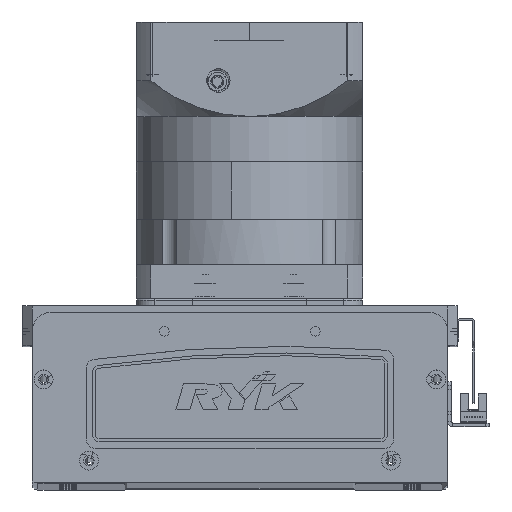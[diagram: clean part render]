
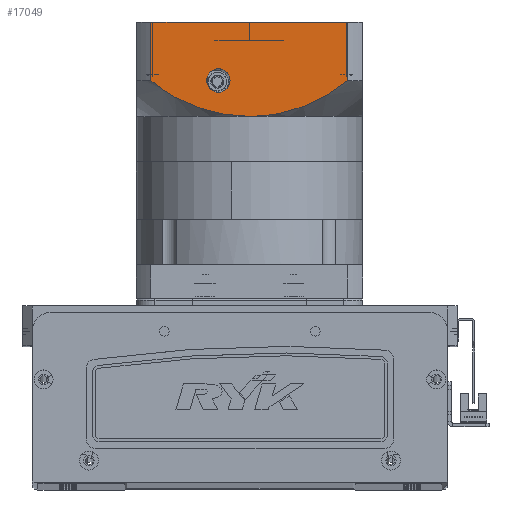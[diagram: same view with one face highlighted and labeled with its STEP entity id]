
A CAD part, top view. The second image highlights one B-rep face of the part: STEP entity #17049.
In plain terms, the highlighted planar face has unit normal (0, 0, 1) as drawn and (0, -1, 0) by its records, which use the part's own axes.
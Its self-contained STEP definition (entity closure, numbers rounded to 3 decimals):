
#830 = EDGE_LOOP ( 'NONE', ( #19661, #28987, #9661, #12062, #45867 ) ) ;
#1755 = CARTESIAN_POINT ( 'NONE',  ( 45.542, -60., -114.478 ) ) ;
#1995 = DIRECTION ( 'NONE',  ( 1., 0., 0. ) ) ;
#1997 = B_SPLINE_CURVE_WITH_KNOTS ( 'NONE', 3,
 ( #58545, #62864, #27476, #27713, #63731, #32448, #48379, #63507, #21869, #17566, #22095, #57667, #58099, #42583, #1755, #57882, #31987, #43019 ),
 .UNSPECIFIED., .F., .F.,
 ( 4, 2, 2, 2, 2, 2, 2, 2, 4 ),
 ( 0., 0.014, 0.018, 0.021, 0.028, 0.042, 0.046, 0.05, 0.057 ),
 .UNSPECIFIED. ) ;
#2298 = ORIENTED_EDGE ( 'NONE', *, *, #38940, .T. ) ;
#3422 = CIRCLE ( 'NONE', #38085, 6.25 ) ;
#3600 = CARTESIAN_POINT ( 'NONE',  ( 52.156, -60., -150.5 ) ) ;
#4941 = EDGE_CURVE ( 'NONE', #15484, #57319, #22642, .T. ) ;
#6580 = ORIENTED_EDGE ( 'NONE', *, *, #31493, .T. ) ;
#7437 = PLANE ( 'NONE',  #8133 ) ;
#7894 = CARTESIAN_POINT ( 'NONE',  ( -36.409, -60., -109.113 ) ) ;
#8133 = AXIS2_PLACEMENT_3D ( 'NONE', #58778, #27724, #1995 ) ;
#8574 = CARTESIAN_POINT ( 'NONE',  ( -12.993, -60., -101.537 ) ) ;
#9661 = ORIENTED_EDGE ( 'NONE', *, *, #66839, .T. ) ;
#9827 = DIRECTION ( 'NONE',  ( 0., 0., -1. ) ) ;
#11002 = AXIS2_PLACEMENT_3D ( 'NONE', #53653, #22828, #43097 ) ;
#12062 = ORIENTED_EDGE ( 'NONE', *, *, #34508, .F. ) ;
#12132 = CARTESIAN_POINT ( 'NONE',  ( -60., -60., -150.5 ) ) ;
#12727 = CARTESIAN_POINT ( 'NONE',  ( 16.5, -60., -125.75 ) ) ;
#13274 = CARTESIAN_POINT ( 'NONE',  ( 16.5, -60., -113.25 ) ) ;
#13764 = CARTESIAN_POINT ( 'NONE',  ( -8.294, -60., -100.916 ) ) ;
#14374 = CIRCLE ( 'NONE', #11002, 6.25 ) ;
#15275 = FACE_OUTER_BOUND ( 'NONE', #830, .T. ) ;
#15484 = VERTEX_POINT ( 'NONE', #26150 ) ;
#16740 = LINE ( 'NONE', #3600, #32818 ) ;
#17049 = ADVANCED_FACE ( 'NONE', ( #15275, #32182 ), #7437, .T. ) ;
#17566 = CARTESIAN_POINT ( 'NONE',  ( 32.196, -60., -107.007 ) ) ;
#17752 = DIRECTION ( 'NONE',  ( 1., 0., 0. ) ) ;
#18503 = CARTESIAN_POINT ( 'NONE',  ( -32.118, -60., -107.084 ) ) ;
#18606 = CARTESIAN_POINT ( 'NONE',  ( 0., -60., -100.5 ) ) ;
#19178 = CARTESIAN_POINT ( 'NONE',  ( -11.825, -60., -101.356 ) ) ;
#19367 = CARTESIAN_POINT ( 'NONE',  ( -52.156, -60., -97.5 ) ) ;
#19661 = ORIENTED_EDGE ( 'NONE', *, *, #34701, .F. ) ;
#21039 = DIRECTION ( 'NONE',  ( 0., 1., 0. ) ) ;
#21869 = CARTESIAN_POINT ( 'NONE',  ( 25.577, -60., -104.596 ) ) ;
#22095 = CARTESIAN_POINT ( 'NONE',  ( 36.444, -60., -108.986 ) ) ;
#22642 = B_SPLINE_CURVE_WITH_KNOTS ( 'NONE', 3,
 ( #60145, #54746, #54528, #29069, #39653, #7894, #65116, #18503, #34257, #43951, #39433, #8574, #19178, #44618, #13764, #28631, #64909, #49778 ),
 .UNSPECIFIED., .F., .F.,
 ( 4, 2, 2, 2, 2, 2, 2, 2, 4 ),
 ( 0., 0.014, 0.018, 0.021, 0.028, 0.042, 0.046, 0.05, 0.057 ),
 .UNSPECIFIED. ) ;
#22828 = DIRECTION ( 'NONE',  ( 0., 1., 0. ) ) ;
#24418 = EDGE_CURVE ( 'NONE', #53394, #44500, #37473, .T. ) ;
#26150 = CARTESIAN_POINT ( 'NONE',  ( -52.156, -60., -119.5 ) ) ;
#27476 = CARTESIAN_POINT ( 'NONE',  ( 9.454, -60., -100.914 ) ) ;
#27713 = CARTESIAN_POINT ( 'NONE',  ( 15.267, -60., -101.938 ) ) ;
#27724 = DIRECTION ( 'NONE',  ( 0., -1., 0. ) ) ;
#28631 = CARTESIAN_POINT ( 'NONE',  ( -4.747, -60., -100.604 ) ) ;
#28987 = ORIENTED_EDGE ( 'NONE', *, *, #24418, .T. ) ;
#29069 = CARTESIAN_POINT ( 'NONE',  ( -39.546, -60., -110.776 ) ) ;
#30602 = VERTEX_POINT ( 'NONE', #60340 ) ;
#31493 = EDGE_CURVE ( 'NONE', #38225, #49648, #14374, .T. ) ;
#31987 = CARTESIAN_POINT ( 'NONE',  ( 50.338, -60., -117.969 ) ) ;
#32182 = FACE_BOUND ( 'NONE', #40535, .T. ) ;
#32448 = CARTESIAN_POINT ( 'NONE',  ( 18.739, -60., -102.681 ) ) ;
#32818 = VECTOR ( 'NONE', #65548, 1000. ) ;
#33485 = VECTOR ( 'NONE', #17752, 1000. ) ;
#34257 = CARTESIAN_POINT ( 'NONE',  ( -29.939, -60., -106.183 ) ) ;
#34508 = EDGE_CURVE ( 'NONE', #57319, #30602, #1997, .T. ) ;
#34701 = EDGE_CURVE ( 'NONE', #53394, #15484, #53024, .T. ) ;
#37473 = LINE ( 'NONE', #12132, #33485 ) ;
#38085 = AXIS2_PLACEMENT_3D ( 'NONE', #56205, #21039, #9827 ) ;
#38225 = VERTEX_POINT ( 'NONE', #13274 ) ;
#38940 = EDGE_CURVE ( 'NONE', #49648, #38225, #3422, .T. ) ;
#39433 = CARTESIAN_POINT ( 'NONE',  ( -18.792, -60., -102.562 ) ) ;
#39653 = CARTESIAN_POINT ( 'NONE',  ( -38.51, -60., -110.207 ) ) ;
#40535 = EDGE_LOOP ( 'NONE', ( #2298, #6580 ) ) ;
#42583 = CARTESIAN_POINT ( 'NONE',  ( 44.553, -60., -113.817 ) ) ;
#43019 = CARTESIAN_POINT ( 'NONE',  ( 52.156, -60., -119.5 ) ) ;
#43097 = DIRECTION ( 'NONE',  ( 0., 0., -1. ) ) ;
#43951 = CARTESIAN_POINT ( 'NONE',  ( -23.319, -60., -103.777 ) ) ;
#44500 = VERTEX_POINT ( 'NONE', #60596 ) ;
#44618 = CARTESIAN_POINT ( 'NONE',  ( -9.477, -60., -101.046 ) ) ;
#45867 = ORIENTED_EDGE ( 'NONE', *, *, #4941, .F. ) ;
#48379 = CARTESIAN_POINT ( 'NONE',  ( 19.894, -60., -102.964 ) ) ;
#49648 = VERTEX_POINT ( 'NONE', #12727 ) ;
#49737 = DIRECTION ( 'NONE',  ( 0., 0., 1. ) ) ;
#49778 = CARTESIAN_POINT ( 'NONE',  ( 0., -60., -100.5 ) ) ;
#53024 = LINE ( 'NONE', #19367, #63493 ) ;
#53394 = VERTEX_POINT ( 'NONE', #58036 ) ;
#53653 = CARTESIAN_POINT ( 'NONE',  ( 16.5, -60., -119.5 ) ) ;
#54528 = CARTESIAN_POINT ( 'NONE',  ( -44.656, -60., -113.73 ) ) ;
#54746 = CARTESIAN_POINT ( 'NONE',  ( -48.52, -60., -116.438 ) ) ;
#56205 = CARTESIAN_POINT ( 'NONE',  ( 16.5, -60., -119.5 ) ) ;
#57319 = VERTEX_POINT ( 'NONE', #18606 ) ;
#57667 = CARTESIAN_POINT ( 'NONE',  ( 41.545, -60., -111.931 ) ) ;
#57882 = CARTESIAN_POINT ( 'NONE',  ( 48.457, -60., -116.522 ) ) ;
#58036 = CARTESIAN_POINT ( 'NONE',  ( -52.156, -60., -150.5 ) ) ;
#58099 = CARTESIAN_POINT ( 'NONE',  ( 42.555, -60., -112.543 ) ) ;
#58545 = CARTESIAN_POINT ( 'NONE',  ( 0., -60., -100.5 ) ) ;
#58778 = CARTESIAN_POINT ( 'NONE',  ( -60., -60., -150.5 ) ) ;
#60145 = CARTESIAN_POINT ( 'NONE',  ( -52.156, -60., -119.5 ) ) ;
#60340 = CARTESIAN_POINT ( 'NONE',  ( 52.156, -60., -119.5 ) ) ;
#60596 = CARTESIAN_POINT ( 'NONE',  ( 52.156, -60., -150.5 ) ) ;
#62864 = CARTESIAN_POINT ( 'NONE',  ( 4.753, -60., -100.5 ) ) ;
#63493 = VECTOR ( 'NONE', #49737, 1000. ) ;
#63507 = CARTESIAN_POINT ( 'NONE',  ( 23.329, -60., -103.886 ) ) ;
#63731 = CARTESIAN_POINT ( 'NONE',  ( 16.426, -60., -102.169 ) ) ;
#64909 = CARTESIAN_POINT ( 'NONE',  ( -2.376, -60., -100.5 ) ) ;
#65116 = CARTESIAN_POINT ( 'NONE',  ( -35.342, -60., -108.587 ) ) ;
#65548 = DIRECTION ( 'NONE',  ( 0., 0., 1. ) ) ;
#66839 = EDGE_CURVE ( 'NONE', #44500, #30602, #16740, .T. ) ;
